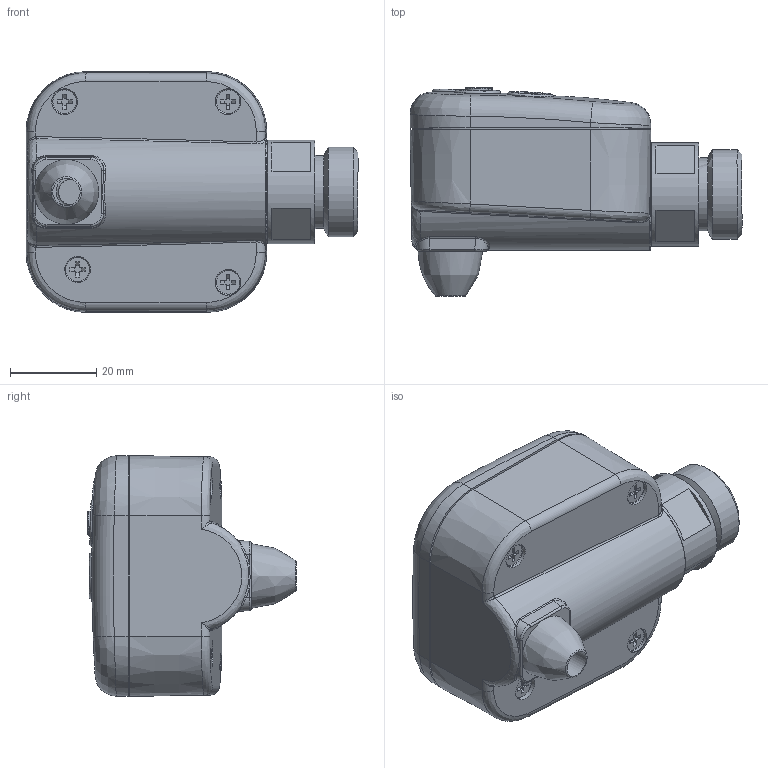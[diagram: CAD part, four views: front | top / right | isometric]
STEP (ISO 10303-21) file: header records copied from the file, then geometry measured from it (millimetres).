
FILE_DESCRIPTION((''),'2;1');
FILE_NAME('F:\DAHL\HQT_HEC_CHROME_01_TBR.stp','2016-07-22T05:54:06',('tomek_b'),(''),'Autodesk Inventor 2012','Autodesk Inventor 2012','');
FILE_SCHEMA(('AUTOMOTIVE_DESIGN { 1 0 10303 214 1 1 1 1 }'));
Length unit declared in the file: centimetre
Products named in the file (11): grzalka-asm; korpus; głowica_v2; front; oring60x1-2; przyciski3; sztbkaLED; BN 82427-3x20; odciazka; oring18x1; BOSSARD2,5x6artno3034063
Assembly tree (14 placements, depth 2):
  grzalka-asm
    korpus
    głowica_v2
    front
    oring60x1-2
    przyciski3
    sztbkaLED
    BN 82427-3x20  x4
    odciazka
    oring18x1
    BOSSARD2,5x6artno3034063  x2
Bounding box: 77.2 x 48.5 x 56 mm (x, y, z)
Volume: 34080.3 mm3; surface area: 37690.6 mm2
Topology: 13 solids, 14 shells, 709 faces, 1680 edges, 1070 vertices
Faces by surface type: plane 313, cylinder 174, cone 89, bspline 62, torus 40, sphere 18, revolution 13
Full cylindrical faces by diameter (mm): 1 x4, 2 x2, 2.082 x4, 2.5 x2, 2.6 x4, 3 x4, 3.2 x4, 3.6 x2, 5 x6, 5.5 x4, 6 x7, 6.4 x1, 6.6 x2, 8.9 x3, 9.4 x1, 10.7 x3, 10.8 x3, 11.2 x3, 11.9 x3, 12 x3, 12.5 x3, 16 x2, 17 x1, 18 x1, 19.1 x2, 19.3 x1, 20.8 x1, 21 x1, 24.1 x1
Entity records: 25009 total; most frequent: CARTESIAN_POINT 10825, DIRECTION 2881, ORIENTED_EDGE 2608, EDGE_CURVE 1304, AXIS2_PLACEMENT_3D 1180, VERTEX_POINT 894, EDGE_LOOP 858, FACE_OUTER_BOUND 624
